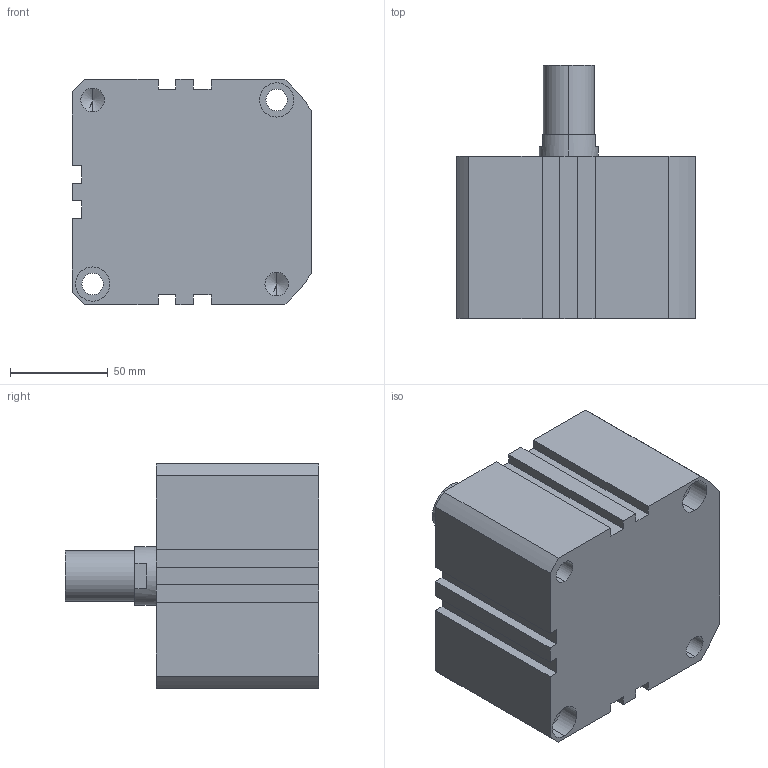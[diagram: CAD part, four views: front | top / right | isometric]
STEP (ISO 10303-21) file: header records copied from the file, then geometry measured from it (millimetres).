
FILE_DESCRIPTION (( 'STEP AP203' ), '1' );
FILE_NAME ('XG#M2-100D-10.STEP', '2016-05-24T02:20:58', ( '' ), ( '' ), 'SwSTEP 2.0', 'SolidWorks 2014', '' );
FILE_SCHEMA (( 'CONFIG_CONTROL_DESIGN' ));
Length unit declared in the file: millimetre
Products named in the file (1): XG#M2-100D-10
Bounding box: 122.5 x 129.5 x 115 mm (x, y, z)
Volume: 1103399.5 mm3; surface area: 87238 mm2
Topology: 1 solids, 1 shells, 110 faces, 275 edges, 173 vertices
Faces by surface type: cylinder 47, plane 47, cone 16
Entity records: 3303 total; most frequent: DIRECTION 592, CARTESIAN_POINT 547, ORIENTED_EDGE 526, EDGE_CURVE 263, AXIS2_PLACEMENT_3D 218, VERTEX_POINT 173, LINE 156, VECTOR 156
